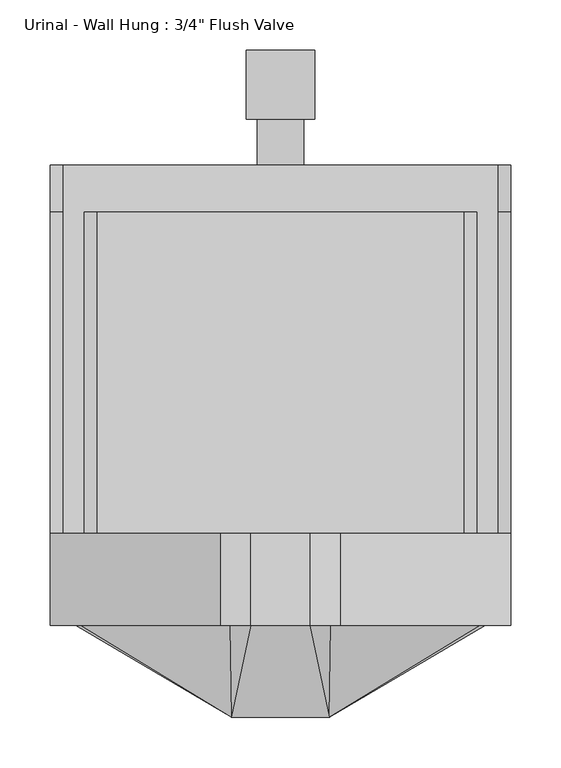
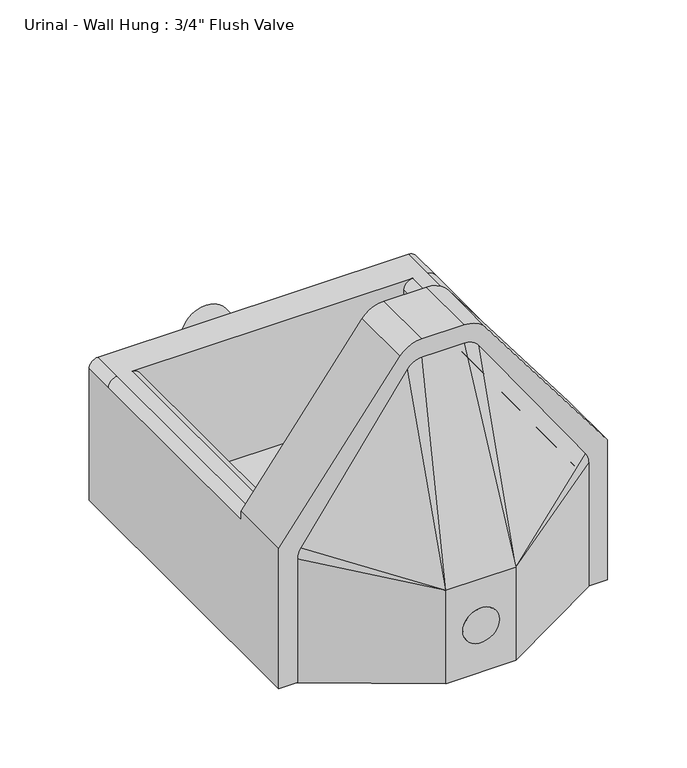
"""IFC4 building model written with IfcOpenShell, lengths in millimetres: flow terminal geometry."""

from ifc_helpers import new_model, si_unit, point, frame, frame_2d, origin, place, context, project, spatial, circle_curve, trimmed, segment, composite_curve, outline, extrude, source, transform, mapped, element, save
from ifc_brep_helpers import plane_surface, cylinder_surface, spline_surface, advanced_brep


def flow_terminal_4fefd68c(model_context):
    return source(origin(), model_context, "Body", "SolidModel", [
        extrude(outline(composite_curve([segment(trimmed(circle_curve(frame_2d((68.659375, 0.0)), 25.4), [point((68.659375, -25.4))], [point((68.659375, 25.4))], False, "CARTESIAN"), True, "CONTINUOUS"), segment(trimmed(circle_curve(frame_2d((68.659375, 0.0)), 25.4), [point((68.659375, 25.4))], [point((68.659375, -25.4))], False, "CARTESIAN"), True, "CONTINUOUS")], self_intersect=False)), frame((0.0, -182.5625, 0.0), z_axis=(0.0, 1.0, 0.0), x_axis=(0.0, 0.0, 1.0)), (0.0, 0.0, 1.0), 91.28125),
        advanced_brep(
        [(228.6, -91.28125, 0.0), (-228.6, -91.28125, 0.0), (-228.6, 365.91875, 0.0), (228.6, 365.91875, 0.0), (-59.8511275, 0.0, 429.3407681), (-29.4318712, 0.0, 444.5), (29.4318712, 0.0, 444.5), (59.8511275, 0.0, 429.3407681), (228.6, 0.0, 205.58125), (228.6, 0.0, 192.88125), (215.9, 0.0, 205.58125), (195.2625, 0.0, 205.58125), (182.5625, 0.0, 192.88125), (182.5625, 0.0, 183.5881239), (31.5245701, 0.0, 398.4625), (-31.5245701, 0.0, 398.4625), (-182.5625, 0.0, 183.5881239), (-182.5625, 0.0, 192.88125), (-195.2625, 0.0, 205.58125), (-215.9, 0.0, 205.58125), (-228.6, 0.0, 192.88125), (-228.6, 0.0, 205.58125), (-228.6, -91.28125, 205.58125), (-228.6, 319.88125, 192.88125), (-228.6, 365.91875, 192.88125), (228.6, -91.28125, 205.58125), (59.8511275, -91.28125, 429.3407681), (29.4318712, -91.28125, 444.5), (-29.4318712, -91.28125, 444.5), (-59.8511275, -91.28125, 429.3407681), (31.5245701, -91.28125, 398.4625), (182.5625, -91.28125, 183.5881239), (182.5625, -91.28125, 25.4), (-182.5625, -91.28125, 25.4), (-182.5625, -91.28125, 183.5881239), (-31.5245701, -91.28125, 398.4625), (228.6, 365.91875, 192.88125), (228.6, 319.88125, 192.88125), (-182.5625, 319.88125, 25.4), (-182.5625, 319.88125, 192.88125), (182.5625, 319.88125, 25.4), (182.5625, 319.88125, 192.88125), (195.2625, 319.88125, 205.58125), (-195.2625, 319.88125, 205.58125), (215.9, 365.91875, 205.58125), (-215.9, 365.91875, 205.58125), (-215.9, 319.88125, 205.58125), (215.9, 319.88125, 205.58125)],
        [
            (0, 1),
            (1, 2),
            (2, 3),
            (3, 0),
            (4, 5, circle_curve(frame((-29.4318712, 0.0, 406.4), z_axis=(0.0, 1.0, 0.0), x_axis=(1.0, 0.0, 0.0)), 38.1)),
            (5, 6),
            (6, 7, circle_curve(frame((29.4318712, 0.0, 406.4), z_axis=(0.0, 1.0, 0.0), x_axis=(1.0, 0.0, 0.0)), 38.1)),
            (7, 8),
            (8, 9),
            (9, 10, circle_curve(frame((215.9, 0.0, 192.88125), z_axis=(0.0, -1.0, 0.0), x_axis=(1.0, 0.0, 0.0)), 12.7)),
            (10, 11),
            (11, 12, circle_curve(frame((195.2625, 0.0, 192.88125), z_axis=(0.0, -1.0, 0.0), x_axis=(1.0, 0.0, 0.0)), 12.7)),
            (12, 13),
            (13, 14),
            (14, 15),
            (15, 16),
            (16, 17),
            (17, 18, circle_curve(frame((-195.2625, 0.0, 192.88125), z_axis=(0.0, -1.0, 0.0), x_axis=(1.0, 0.0, 0.0)), 12.7)),
            (18, 19),
            (19, 20, circle_curve(frame((-215.9, 0.0, 192.88125), z_axis=(0.0, -1.0, 0.0), x_axis=(1.0, 0.0, 0.0)), 12.7)),
            (20, 21),
            (21, 4),
            (1, 22),
            (22, 21),
            (20, 23),
            (23, 24),
            (24, 2),
            (0, 25),
            (25, 26),
            (26, 27, circle_curve(frame((29.4318712, -91.28125, 406.4), z_axis=(0.0, -1.0, 0.0), x_axis=(1.0, 0.0, 0.0)), 38.1)),
            (27, 28),
            (28, 29, circle_curve(frame((-29.4318712, -91.28125, 406.4), z_axis=(0.0, -1.0, 0.0), x_axis=(1.0, 0.0, 0.0)), 38.1)),
            (29, 22),
            (30, 31),
            (31, 32),
            (32, 33),
            (33, 34),
            (34, 35),
            (35, 30),
            (3, 36),
            (36, 37),
            (37, 9),
            (8, 25),
            (29, 4),
            (7, 26),
            (6, 27),
            (5, 28),
            (13, 31),
            (30, 14),
            (35, 15),
            (34, 16),
            (33, 38),
            (38, 39),
            (39, 17),
            (32, 40),
            (40, 38),
            (12, 41),
            (41, 40),
            (42, 43),
            (43, 39, circle_curve(frame((-195.2625, 319.88125, 192.88125), z_axis=(0.0, 1.0, 0.0), x_axis=(1.0, 0.0, 0.0)), 12.7)),
            (41, 42, circle_curve(frame((195.2625, 319.88125, 192.88125), z_axis=(0.0, 1.0, 0.0), x_axis=(1.0, 0.0, 0.0)), 12.7)),
            (44, 36, circle_curve(frame((215.9, 365.91875, 192.88125), z_axis=(0.0, 1.0, 0.0), x_axis=(1.0, 0.0, 0.0)), 12.7)),
            (24, 45, circle_curve(frame((-215.9, 365.91875, 192.88125), z_axis=(0.0, 1.0, 0.0), x_axis=(1.0, 0.0, 0.0)), 12.7)),
            (45, 44),
            (45, 46),
            (46, 19),
            (18, 43),
            (42, 11),
            (10, 47),
            (47, 44),
            (23, 46, circle_curve(frame((-215.9, 319.88125, 192.88125), z_axis=(0.0, 1.0, 0.0), x_axis=(1.0, 0.0, 0.0)), 12.7)),
            (47, 37, circle_curve(frame((215.9, 319.88125, 192.88125), z_axis=(0.0, 1.0, 0.0), x_axis=(1.0, 0.0, 0.0)), 12.7)),
        ],
        [
            plane_surface(frame((-228.6, 0.0, 0.0), z_axis=(0.0, 0.0, -1.0), x_axis=(1.0, 0.0, 0.0))),
            plane_surface(frame((228.6, 0.0, 205.58125), z_axis=(0.0, 1.0, 0.0), x_axis=(0.0, 0.0, -1.0))),
            plane_surface(frame((-228.6, 0.0, 205.58125), z_axis=(-1.0, 0.0, 0.0), x_axis=(0.0, 0.0, -1.0))),
            plane_surface(frame((-228.6, -91.28125, 205.58125), z_axis=(0.0, -1.0, 0.0), x_axis=(0.0, 0.0, -1.0))),
            plane_surface(frame((228.6, -91.28125, 205.58125), z_axis=(1.0, 0.0, 0.0), x_axis=(0.0, 0.0, -1.0))),
            plane_surface(frame((-59.8511275, -91.28125, 429.3407681), z_axis=(-0.7984056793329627, 0.0, 0.602119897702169), x_axis=(0.0, 1.0, 0.0))),
            plane_surface(frame((228.6, -91.28125, 205.58125), z_axis=(0.7984056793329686, 0.0, 0.6021198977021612), x_axis=(0.0, 1.0, 0.0))),
            cylinder_surface(frame((29.4318712, 0.0, 406.4), z_axis=(0.0, -1.0, 0.0), x_axis=(1.0, 0.0, 0.0)), 38.1),
            plane_surface(frame((29.4318712, -91.28125, 444.5), z_axis=(0.0, 0.0, 1.0), x_axis=(0.0, 1.0, 0.0))),
            cylinder_surface(frame((-29.4318712, 0.0, 406.4), z_axis=(0.0, -1.0, 0.0), x_axis=(1.0, 0.0, 0.0)), 38.1),
            plane_surface(frame((182.5625, -91.28125, 183.5881239), z_axis=(-0.8181108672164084, 0.0, -0.5750605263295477), x_axis=(0.0, 1.0, 0.0))),
            plane_surface(frame((31.5245701, -91.28125, 398.4625), z_axis=(0.0, 0.0, -1.0), x_axis=(0.0, 1.0, 0.0))),
            plane_surface(frame((-31.5245701, -91.28125, 398.4625), z_axis=(0.8181108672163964, 0.0, -0.5750605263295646), x_axis=(0.0, 1.0, 0.0))),
            plane_surface(frame((-182.5625, -91.28125, 183.5881239), z_axis=(1.0, 0.0, 0.0), x_axis=(0.0, 1.0, 0.0))),
            plane_surface(frame((-182.5625, -91.28125, 25.4), z_axis=(0.0, 0.0, 1.0), x_axis=(0.0, 1.0, 0.0))),
            plane_surface(frame((182.5625, -91.28125, 25.4), z_axis=(-1.0, 0.0, 0.0), x_axis=(0.0, 1.0, 0.0))),
            plane_surface(frame((-215.9, 319.88125, 205.58125), z_axis=(0.0, -1.0, 0.0), x_axis=(-1.0, 0.0, 0.0))),
            plane_surface(frame((-215.9, 365.91875, 205.58125), z_axis=(0.0, 1.0, 0.0), x_axis=(1.0, 0.0, 0.0))),
            plane_surface(frame((215.9, 319.88125, 205.58125), z_axis=(0.0, 0.0, 1.0), x_axis=(0.0, 1.0, 0.0))),
            cylinder_surface(frame((-215.9, 365.91875, 192.88125), z_axis=(0.0, -1.0, 0.0), x_axis=(1.0, 0.0, 0.0)), 12.7),
            cylinder_surface(frame((215.9, 365.91875, 192.88125), z_axis=(0.0, -1.0, 0.0), x_axis=(1.0, 0.0, 0.0)), 12.7),
            cylinder_surface(frame((-215.9, 319.88125, 192.88125), z_axis=(0.0, -1.0, 0.0), x_axis=(1.0, 0.0, 0.0)), 12.7),
            cylinder_surface(frame((215.9, 319.88125, 192.88125), z_axis=(0.0, -1.0, 0.0), x_axis=(1.0, 0.0, 0.0)), 12.7),
            cylinder_surface(frame((195.2625, 319.88125, 192.88125), z_axis=(0.0, -1.0, 0.0), x_axis=(1.0, 0.0, 0.0)), 12.7),
            cylinder_surface(frame((-195.2625, 319.88125, 192.88125), z_axis=(0.0, -1.0, 0.0), x_axis=(1.0, 0.0, 0.0)), 12.7),
        ],
        [
            (0, [[1, 2, 3, 4]]),
            (1, [[5, 6, 7, 8, 9, 10, 11, 12, 13, 14, 15, 16, 17, 18, 19, 20, 21, 22]]),
            (2, [[-2, 23, 24, -21, 25, 26, 27]]),
            (3, [[-1, 28, 29, 30, 31, 32, 33, -23], [34, 35, 36, 37, 38, 39]]),
            (4, [[-4, 40, 41, 42, -9, 43, -28]]),
            (5, [[-33, 44, -22, -24]]),
            (6, [[-29, -43, -8, 45]]),
            (7, [[-30, -45, -7, 46]]),
            (8, [[-31, -46, -6, 47]]),
            (9, [[-32, -47, -5, -44]]),
            (10, [[48, -34, 49, -14]]),
            (11, [[-49, -39, 50, -15]]),
            (12, [[-50, -38, 51, -16]]),
            (13, [[-51, -37, 52, 53, 54, -17]]),
            (14, [[-52, -36, 55, 56]]),
            (15, [[-48, -13, 57, 58, -55, -35]]),
            (16, [[59, 60, -53, -56, -58, 61]]),
            (17, [[62, -40, -3, -27, 63, 64]]),
            (18, [[-64, 65, 66, -19, 67, -59, 68, -11, 69, 70]]),
            (19, [[-63, -26, 71, -65]]),
            (20, [[-62, -70, 72, -41]]),
            (21, [[-66, -71, -25, -20]]),
            (22, [[-42, -72, -69, -10]]),
            (23, [[-68, -61, -57, -12]]),
            (24, [[-67, -18, -54, -60]]),
        ],
    ),
        extrude(outline(composite_curve([segment(trimmed(circle_curve(frame_2d((102.790625, 0.0)), 34.13125), [point((102.790625, -34.13125))], [point((102.790625, 34.13125))], False, "CARTESIAN"), True, "CONTINUOUS"), segment(trimmed(circle_curve(frame_2d((102.790625, 0.0)), 34.13125), [point((102.790625, 34.13125))], [point((102.790625, -34.13125))], False, "CARTESIAN"), True, "CONTINUOUS")], self_intersect=False)), frame((0.0, 411.95625, 0.0), z_axis=(0.0, 1.0, 0.0), x_axis=(0.0, 0.0, 1.0)), (0.0, 0.0, 1.0), 68.2625),
        advanced_brep(
        [(48.41875, -182.5625, 137.31875), (-48.41875, -182.5625, 137.31875), (-48.41875, -182.5625, 0.0), (48.41875, -182.5625, 0.0), (29.0508537, -91.28125, 419.1), (49.8308698, -91.28125, 408.3065374), (198.580016, -91.28125, 196.6883033), (203.2, -91.28125, 182.0817659), (203.2, -91.28125, 0.0), (-203.2, -91.28125, 0.0), (-203.2, -91.28125, 182.0817659), (-198.580016, -91.28125, 196.6883033), (-49.8308698, -91.28125, 408.3065374), (-29.0508537, -91.28125, 419.1)],
        [
            (0, 1),
            (1, 2),
            (2, 3),
            (3, 0),
            (4, 5, circle_curve(frame((29.0508537, -91.28125, 393.7), z_axis=(0.0, 1.0, 0.0), x_axis=(1.0, 0.0, 0.0)), 25.4)),
            (5, 6),
            (6, 7, circle_curve(frame((177.8, -91.28125, 182.0817659), z_axis=(0.0, 1.0, 0.0), x_axis=(1.0, 0.0, 0.0)), 25.4)),
            (7, 8),
            (8, 9),
            (9, 10),
            (10, 11, circle_curve(frame((-177.8, -91.28125, 182.0817659), z_axis=(0.0, 1.0, 0.0), x_axis=(1.0, 0.0, 0.0)), 25.4)),
            (11, 12),
            (12, 13, circle_curve(frame((-29.0508537, -91.28125, 393.7), z_axis=(0.0, 1.0, 0.0), x_axis=(1.0, 0.0, 0.0)), 25.4)),
            (13, 4),
            (13, 1),
            (0, 4),
            (12, 1),
            (11, 1),
            (10, 1),
            (9, 2),
            (8, 3),
            (7, 0),
            (6, 0),
            (5, 0),
        ],
        [
            plane_surface(frame((0.0, -182.5625, 68.659375), z_axis=(0.0, -1.0, 0.0), x_axis=(-1.0, 0.0, 0.0))),
            plane_surface(frame((0.0, -91.28125, 241.2353213), z_axis=(0.0, 1.0, 0.0), x_axis=(-1.0, 0.0, 0.0))),
            plane_surface(frame((0.0, -91.28125, 419.1), z_axis=(0.0, -0.9513290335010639, 0.3081770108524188), x_axis=(-1.0, 0.0, 0.0))),
            spline_surface(2, 1, [[(-29.0508537, -91.28125, 419.1), (-48.41875, -182.5625, 137.31875)], [(-42.244007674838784, -91.28125, 419.09999995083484), (-48.41875, -182.5625, 137.31875)], [(-49.8308698, -91.28125, 408.3065374), (-48.41875, -182.5625, 137.31875)]], [3, 3], [2, 2], [0.0, 1.0], [0.0, 1.0], weights=[[1.0, 1.0], [0.887429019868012, 0.887429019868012], [1.0, 1.0]]),
            plane_surface(frame((-124.2054429, -91.28125, 302.4974203), z_axis=(-0.41122685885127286, -0.8644875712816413, 0.28905658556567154), x_axis=(-0.5750605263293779, 0.0, -0.8181108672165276))),
            spline_surface(2, 1, [[(-198.580016, -91.28125, 196.6883033), (-48.41875, -182.5625, 137.31875)], [(-203.19999999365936, -91.28125, 190.11567498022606), (-48.41875, -182.5625, 137.31875)], [(-203.2, -91.28125, 182.0817659), (-48.41875, -182.5625, 137.31875)]], [3, 3], [2, 2], [0.0, 1.0], [0.0, 1.0], weights=[[1.0, 1.0], [0.9534439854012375, 0.9534439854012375], [1.0, 1.0]]),
            plane_surface(frame((-203.2, -91.28125, 91.040883), z_axis=(-0.50798501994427, -0.8613659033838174, 0.0), x_axis=(0.0, 0.0, -1.0))),
            plane_surface(frame((0.0, -91.28125, 0.0), z_axis=(0.0, 0.0, -1.0), x_axis=(1.0, 0.0, 0.0))),
            plane_surface(frame((203.2, -91.28125, 91.040883), z_axis=(0.5079850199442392, -0.8613659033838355, 0.0), x_axis=(0.0, 0.0, 1.0))),
            spline_surface(2, 1, [[(203.2, -91.28125, 182.0817659), (48.41875, -182.5625, 137.31875)], [(203.2000000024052, -91.28125, 190.11567498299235), (48.41875, -182.5625, 137.31875)], [(198.580016, -91.28125, 196.6883033), (48.41875, -182.5625, 137.31875)]], [3, 3], [2, 2], [0.0, 1.0], [0.0, 1.0], weights=[[1.0, 1.0], [0.9534439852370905, 0.9534439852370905], [1.0, 1.0]]),
            plane_surface(frame((124.2054429, -91.28125, 302.4974203), z_axis=(0.41122685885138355, -0.8644875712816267, 0.28905658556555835), x_axis=(-0.5750605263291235, 0.0, 0.8181108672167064))),
            spline_surface(2, 1, [[(49.8308698, -91.28125, 408.3065374), (48.41875, -182.5625, 137.31875)], [(42.244007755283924, -91.28125, 419.1000001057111), (48.41875, -182.5625, 137.31875)], [(29.0508537, -91.28125, 419.1), (48.41875, -182.5625, 137.31875)]], [3, 3], [2, 2], [0.0, 1.0], [0.0, 1.0], weights=[[1.0, 1.0], [0.8874290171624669, 0.8874290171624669], [1.0, 1.0]]),
        ],
        [
            (0, [[1, 2, 3, 4]]),
            (1, [[5, 6, 7, 8, 9, 10, 11, 12, 13, 14]]),
            (2, [[-14, 15, -1, 16]]),
            (3, [[-13, 17, -15]]),
            (4, [[-12, 18, -17]]),
            (5, [[-11, 19, -18]]),
            (6, [[-10, 20, -2, -19]]),
            (7, [[-9, 21, -3, -20]]),
            (8, [[-8, 22, -4, -21]]),
            (9, [[-7, 23, -22]]),
            (10, [[-6, 24, -23]]),
            (11, [[-5, -16, -24]]),
        ],
    ),
        extrude(outline(composite_curve([segment(trimmed(circle_curve(frame_2d((102.790625, 0.0)), 23.01875), [point((102.790625, -23.01875))], [point((102.790625, 23.01875))], False, "CARTESIAN"), True, "CONTINUOUS"), segment(trimmed(circle_curve(frame_2d((102.790625, 0.0)), 23.01875), [point((102.790625, 23.01875))], [point((102.790625, -23.01875))], False, "CARTESIAN"), True, "CONTINUOUS")], self_intersect=False)), frame((0.0, 365.91875, 0.0), z_axis=(0.0, 1.0, 0.0), x_axis=(0.0, 0.0, 1.0)), (0.0, 0.0, 1.0), 46.0375),
    ])


if __name__ == "__main__":
    model = new_model("IFC4")
    model_context = context("Model", 3, world=origin())
    ifc_project = project(units=[si_unit("LENGTHUNIT", "METRE", prefix="MILLI")], contexts=[model_context])
    site = spatial("IfcSite", under=ifc_project)
    building = spatial("IfcBuilding", under=site)
    placement = place(None, origin())
    flow_terminal_shape = flow_terminal_4fefd68c(model_context)
    element("IfcFlowTerminal", 1, ObjectType="Urinal - Wall Hung : 3/4\" Flush Valve", at=placement, inside=building, context=model_context, shape_type="MappedRepresentation", body=[
        mapped(flow_terminal_shape, transform((0.0, 0.0, 0.0), x_axis=(1.0, 0.0, 0.0), y_axis=(0.0, 1.0, 0.0), z_axis=(0.0, 0.0, 1.0))),
    ])
    save(model, "model.ifc")
